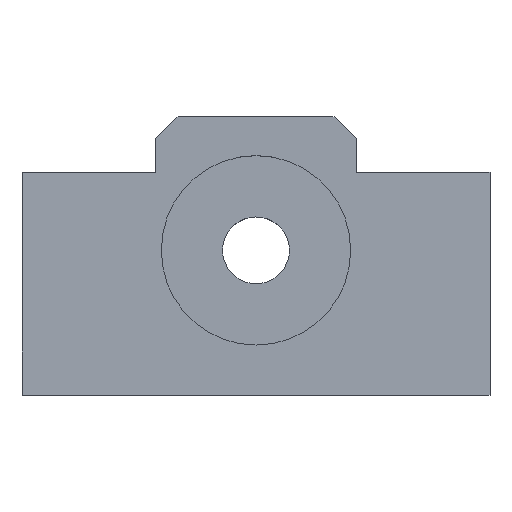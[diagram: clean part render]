
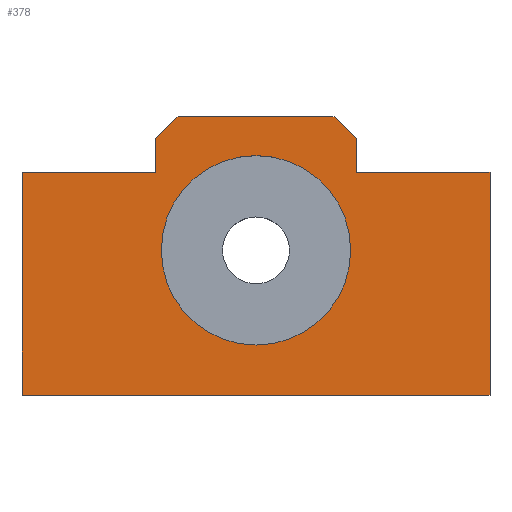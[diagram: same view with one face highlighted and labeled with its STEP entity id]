
A CAD part, top view. The second image highlights one B-rep face of the part: STEP entity #378.
In plain terms, the highlighted planar face has unit normal (0, 0, 1).
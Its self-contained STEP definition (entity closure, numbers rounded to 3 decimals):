
#42=FACE_BOUND($,#113,.T.);
#48=CIRCLE($,#396,8.5);
#73=FACE_OUTER_BOUND($,#112,.T.);
#112=EDGE_LOOP($,(#329,#330,#331,#332,#333,#334,#335,#336,#337,#338));
#113=EDGE_LOOP($,(#339));
#114=LINE($,#529,#144);
#120=LINE($,#540,#150);
#129=LINE($,#562,#159);
#132=LINE($,#567,#162);
#135=LINE($,#610,#165);
#137=LINE($,#613,#167);
#138=LINE($,#615,#168);
#139=LINE($,#618,#169);
#141=LINE($,#622,#171);
#143=LINE($,#625,#173);
#144=VECTOR($,#423,2.828);
#150=VECTOR($,#431,3.);
#159=VECTOR($,#446,2.828);
#162=VECTOR($,#451,3.);
#165=VECTOR($,#504,20.);
#167=VECTOR($,#508,12.);
#168=VECTOR($,#511,14.);
#169=VECTOR($,#514,12.);
#171=VECTOR($,#518,20.);
#173=VECTOR($,#522,42.);
#174=VERTEX_POINT($,#527);
#175=VERTEX_POINT($,#528);
#179=VERTEX_POINT($,#538);
#188=VERTEX_POINT($,#560);
#189=VERTEX_POINT($,#561);
#190=VERTEX_POINT($,#566);
#195=VERTEX_POINT($,#581);
#204=VERTEX_POINT($,#607);
#205=VERTEX_POINT($,#609);
#206=VERTEX_POINT($,#617);
#207=VERTEX_POINT($,#621);
#208=EDGE_CURVE($,#174,#175,#114,.T.);
#214=EDGE_CURVE($,#174,#179,#120,.T.);
#224=EDGE_CURVE($,#188,#189,#129,.T.);
#227=EDGE_CURVE($,#190,#189,#132,.T.);
#233=EDGE_CURVE($,#195,#195,#48,.T.);
#243=EDGE_CURVE($,#205,#204,#135,.T.);
#245=EDGE_CURVE($,#179,#205,#137,.T.);
#246=EDGE_CURVE($,#188,#175,#138,.T.);
#247=EDGE_CURVE($,#206,#190,#139,.T.);
#249=EDGE_CURVE($,#207,#206,#141,.T.);
#251=EDGE_CURVE($,#204,#207,#143,.T.);
#329=ORIENTED_EDGE($,*,*,#208,.F.);
#330=ORIENTED_EDGE($,*,*,#214,.T.);
#331=ORIENTED_EDGE($,*,*,#245,.T.);
#332=ORIENTED_EDGE($,*,*,#243,.T.);
#333=ORIENTED_EDGE($,*,*,#251,.T.);
#334=ORIENTED_EDGE($,*,*,#249,.T.);
#335=ORIENTED_EDGE($,*,*,#247,.T.);
#336=ORIENTED_EDGE($,*,*,#227,.T.);
#337=ORIENTED_EDGE($,*,*,#224,.F.);
#338=ORIENTED_EDGE($,*,*,#246,.T.);
#339=ORIENTED_EDGE($,*,*,#233,.T.);
#355=PLANE($,#418);
#378=ADVANCED_FACE($,(#73,#42),#355,.T.);
#396=AXIS2_PLACEMENT_3D($,#582,#469,#470);
#418=AXIS2_PLACEMENT_3D($,#626,#523,#524);
#423=DIRECTION($,(0.707,0.707,0.));
#431=DIRECTION($,(0.,-1.,0.));
#446=DIRECTION($,(0.707,-0.707,0.));
#451=DIRECTION($,(0.,1.,0.));
#469=DIRECTION('center_axis',(0.,0.,-1.));
#470=DIRECTION('ref_axis',(-1.,0.,0.));
#504=DIRECTION($,(0.,-1.,0.));
#508=DIRECTION($,(-1.,0.,0.));
#511=DIRECTION($,(-1.,0.,0.));
#514=DIRECTION($,(-1.,0.,0.));
#518=DIRECTION($,(0.,1.,0.));
#522=DIRECTION($,(1.,0.,0.));
#523=DIRECTION('center_axis',(0.,0.,1.));
#524=DIRECTION('ref_axis',(1.,0.,0.));
#527=CARTESIAN_POINT('',(12.,23.,12.));
#528=CARTESIAN_POINT('',(14.,25.,12.));
#529=CARTESIAN_POINT($,(11.901,22.901,12.));
#538=CARTESIAN_POINT('',(12.,20.,12.));
#540=CARTESIAN_POINT($,(12.,25.,12.));
#560=CARTESIAN_POINT('',(28.,25.,12.));
#561=CARTESIAN_POINT('',(30.,23.,12.));
#562=CARTESIAN_POINT($,(30.099,22.901,12.));
#566=CARTESIAN_POINT('',(30.,20.,12.));
#567=CARTESIAN_POINT($,(30.,20.,12.));
#581=CARTESIAN_POINT('',(29.5,13.,12.));
#582=CARTESIAN_POINT('Origin',(21.,13.,12.));
#607=CARTESIAN_POINT('',(0.,0.,12.));
#609=CARTESIAN_POINT('',(0.,20.,12.));
#610=CARTESIAN_POINT($,(0.,20.,12.));
#613=CARTESIAN_POINT($,(12.,20.,12.));
#615=CARTESIAN_POINT($,(30.,25.,12.));
#617=CARTESIAN_POINT('',(42.,20.,12.));
#618=CARTESIAN_POINT($,(42.,20.,12.));
#621=CARTESIAN_POINT('',(42.,0.,12.));
#622=CARTESIAN_POINT($,(42.,0.,12.));
#625=CARTESIAN_POINT($,(0.,0.,12.));
#626=CARTESIAN_POINT('Origin',(21.,11.604,12.));
